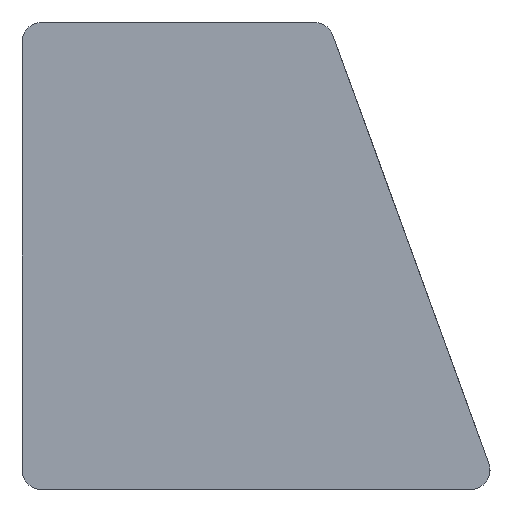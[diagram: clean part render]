
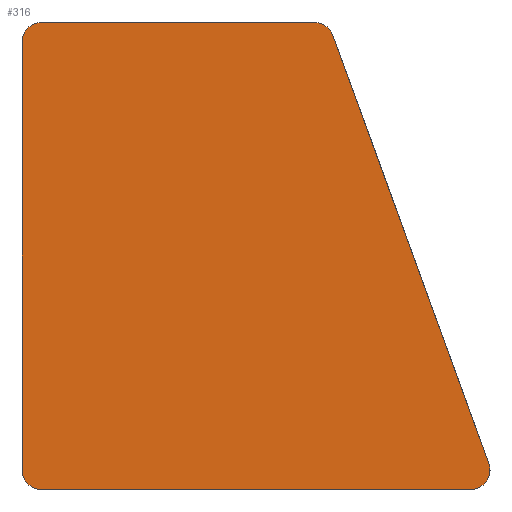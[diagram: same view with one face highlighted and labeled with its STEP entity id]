
A CAD part, left-side view. The second image highlights one B-rep face of the part: STEP entity #316.
In plain terms, the highlighted planar face has unit normal (-1, 0, 0).
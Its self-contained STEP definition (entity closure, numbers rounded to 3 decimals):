
#21 = EDGE_CURVE('',#22,#24,#26,.T.);
#22 = VERTEX_POINT('',#23);
#23 = CARTESIAN_POINT('',(-75.,6.805,3.));
#24 = VERTEX_POINT('',#25);
#25 = CARTESIAN_POINT('',(-75.,96.,3.));
#26 = SURFACE_CURVE('',#27,(#31,#43),.PCURVE_S1.);
#27 = LINE('',#28,#29);
#28 = CARTESIAN_POINT('',(-75.,1.092,3.));
#29 = VECTOR('',#30,1.);
#30 = DIRECTION('',(0.,1.,0.));
#31 = PCURVE('',#32,#37);
#32 = PLANE('',#33);
#33 = AXIS2_PLACEMENT_3D('',#34,#35,#36);
#34 = CARTESIAN_POINT('',(-75.,1.092,3.));
#35 = DIRECTION('',(0.,0.,1.));
#36 = DIRECTION('',(0.,1.,0.));
#37 = DEFINITIONAL_REPRESENTATION('',(#38),#42);
#38 = LINE('',#39,#40);
#39 = CARTESIAN_POINT('',(0.,0.));
#40 = VECTOR('',#41,1.);
#41 = DIRECTION('',(1.,0.));
#42 = ( GEOMETRIC_REPRESENTATION_CONTEXT(2) 
PARAMETRIC_REPRESENTATION_CONTEXT() REPRESENTATION_CONTEXT('2D SPACE',''
  ) );
#43 = PCURVE('',#44,#49);
#44 = PLANE('',#45);
#45 = AXIS2_PLACEMENT_3D('',#46,#47,#48);
#46 = CARTESIAN_POINT('',(-75.,57.816,46.779));
#47 = DIRECTION('',(1.,0.,0.));
#48 = DIRECTION('',(-0.,0.,1.));
#49 = DEFINITIONAL_REPRESENTATION('',(#50),#54);
#50 = LINE('',#51,#52);
#51 = CARTESIAN_POINT('',(-43.779,56.724));
#52 = VECTOR('',#53,1.);
#53 = DIRECTION('',(0.,-1.));
#54 = ( GEOMETRIC_REPRESENTATION_CONTEXT(2) 
PARAMETRIC_REPRESENTATION_CONTEXT() REPRESENTATION_CONTEXT('2D SPACE',''
  ) );
#72 = CYLINDRICAL_SURFACE('',#73,4.);
#73 = AXIS2_PLACEMENT_3D('',#74,#75,#76);
#74 = CARTESIAN_POINT('',(-75.,6.805,7.));
#75 = DIRECTION('',(1.,0.,0.));
#76 = DIRECTION('',(0.,0.,-1.));
#235 = CYLINDRICAL_SURFACE('',#236,4.);
#236 = AXIS2_PLACEMENT_3D('',#237,#238,#239);
#237 = CARTESIAN_POINT('',(-75.,96.,7.));
#238 = DIRECTION('',(1.,0.,0.));
#239 = DIRECTION('',(0.,0.,-1.));
#316 = ADVANCED_FACE('',(#317),#44,.F.);
#317 = FACE_BOUND('',#318,.F.);
#318 = EDGE_LOOP('',(#319,#320,#344,#372,#401,#429,#458,#486));
#319 = ORIENTED_EDGE('',*,*,#21,.T.);
#320 = ORIENTED_EDGE('',*,*,#321,.T.);
#321 = EDGE_CURVE('',#24,#322,#324,.T.);
#322 = VERTEX_POINT('',#323);
#323 = CARTESIAN_POINT('',(-75.,100.,7.));
#324 = SURFACE_CURVE('',#325,(#330,#337),.PCURVE_S1.);
#325 = CIRCLE('',#326,4.);
#326 = AXIS2_PLACEMENT_3D('',#327,#328,#329);
#327 = CARTESIAN_POINT('',(-75.,96.,7.));
#328 = DIRECTION('',(1.,0.,0.));
#329 = DIRECTION('',(-0.,0.,1.));
#330 = PCURVE('',#44,#331);
#331 = DEFINITIONAL_REPRESENTATION('',(#332),#336);
#332 = CIRCLE('',#333,4.);
#333 = AXIS2_PLACEMENT_2D('',#334,#335);
#334 = CARTESIAN_POINT('',(-39.779,-38.184));
#335 = DIRECTION('',(1.,0.));
#336 = ( GEOMETRIC_REPRESENTATION_CONTEXT(2) 
PARAMETRIC_REPRESENTATION_CONTEXT() REPRESENTATION_CONTEXT('2D SPACE',''
  ) );
#337 = PCURVE('',#235,#338);
#338 = DEFINITIONAL_REPRESENTATION('',(#339),#343);
#339 = LINE('',#340,#341);
#340 = CARTESIAN_POINT('',(-3.142,0.));
#341 = VECTOR('',#342,1.);
#342 = DIRECTION('',(1.,0.));
#343 = ( GEOMETRIC_REPRESENTATION_CONTEXT(2) 
PARAMETRIC_REPRESENTATION_CONTEXT() REPRESENTATION_CONTEXT('2D SPACE',''
  ) );
#344 = ORIENTED_EDGE('',*,*,#345,.T.);
#345 = EDGE_CURVE('',#322,#346,#348,.T.);
#346 = VERTEX_POINT('',#347);
#347 = CARTESIAN_POINT('',(-75.,100.,96.));
#348 = SURFACE_CURVE('',#349,(#353,#360),.PCURVE_S1.);
#349 = LINE('',#350,#351);
#350 = CARTESIAN_POINT('',(-75.,100.,3.));
#351 = VECTOR('',#352,1.);
#352 = DIRECTION('',(0.,0.,1.));
#353 = PCURVE('',#44,#354);
#354 = DEFINITIONAL_REPRESENTATION('',(#355),#359);
#355 = LINE('',#356,#357);
#356 = CARTESIAN_POINT('',(-43.779,-42.184));
#357 = VECTOR('',#358,1.);
#358 = DIRECTION('',(1.,0.));
#359 = ( GEOMETRIC_REPRESENTATION_CONTEXT(2) 
PARAMETRIC_REPRESENTATION_CONTEXT() REPRESENTATION_CONTEXT('2D SPACE',''
  ) );
#360 = PCURVE('',#361,#366);
#361 = PLANE('',#362);
#362 = AXIS2_PLACEMENT_3D('',#363,#364,#365);
#363 = CARTESIAN_POINT('',(-75.,100.,3.));
#364 = DIRECTION('',(0.,-1.,0.));
#365 = DIRECTION('',(0.,0.,1.));
#366 = DEFINITIONAL_REPRESENTATION('',(#367),#371);
#367 = LINE('',#368,#369);
#368 = CARTESIAN_POINT('',(0.,0.));
#369 = VECTOR('',#370,1.);
#370 = DIRECTION('',(1.,0.));
#371 = ( GEOMETRIC_REPRESENTATION_CONTEXT(2) 
PARAMETRIC_REPRESENTATION_CONTEXT() REPRESENTATION_CONTEXT('2D SPACE',''
  ) );
#372 = ORIENTED_EDGE('',*,*,#373,.T.);
#373 = EDGE_CURVE('',#346,#374,#376,.T.);
#374 = VERTEX_POINT('',#375);
#375 = CARTESIAN_POINT('',(-75.,96.,100.));
#376 = SURFACE_CURVE('',#377,(#382,#389),.PCURVE_S1.);
#377 = CIRCLE('',#378,4.);
#378 = AXIS2_PLACEMENT_3D('',#379,#380,#381);
#379 = CARTESIAN_POINT('',(-75.,96.,96.));
#380 = DIRECTION('',(1.,0.,0.));
#381 = DIRECTION('',(-0.,0.,1.));
#382 = PCURVE('',#44,#383);
#383 = DEFINITIONAL_REPRESENTATION('',(#384),#388);
#384 = CIRCLE('',#385,4.);
#385 = AXIS2_PLACEMENT_2D('',#386,#387);
#386 = CARTESIAN_POINT('',(49.221,-38.184));
#387 = DIRECTION('',(1.,0.));
#388 = ( GEOMETRIC_REPRESENTATION_CONTEXT(2) 
PARAMETRIC_REPRESENTATION_CONTEXT() REPRESENTATION_CONTEXT('2D SPACE',''
  ) );
#389 = PCURVE('',#390,#395);
#390 = CYLINDRICAL_SURFACE('',#391,4.);
#391 = AXIS2_PLACEMENT_3D('',#392,#393,#394);
#392 = CARTESIAN_POINT('',(-75.,96.,96.));
#393 = DIRECTION('',(1.,0.,0.));
#394 = DIRECTION('',(-0.,1.,0.));
#395 = DEFINITIONAL_REPRESENTATION('',(#396),#400);
#396 = LINE('',#397,#398);
#397 = CARTESIAN_POINT('',(-4.712,0.));
#398 = VECTOR('',#399,1.);
#399 = DIRECTION('',(1.,0.));
#400 = ( GEOMETRIC_REPRESENTATION_CONTEXT(2) 
PARAMETRIC_REPRESENTATION_CONTEXT() REPRESENTATION_CONTEXT('2D SPACE',''
  ) );
#401 = ORIENTED_EDGE('',*,*,#402,.T.);
#402 = EDGE_CURVE('',#374,#403,#405,.T.);
#403 = VERTEX_POINT('',#404);
#404 = CARTESIAN_POINT('',(-75.,39.198,100.));
#405 = SURFACE_CURVE('',#406,(#410,#417),.PCURVE_S1.);
#406 = LINE('',#407,#408);
#407 = CARTESIAN_POINT('',(-75.,100.,100.));
#408 = VECTOR('',#409,1.);
#409 = DIRECTION('',(0.,-1.,0.));
#410 = PCURVE('',#44,#411);
#411 = DEFINITIONAL_REPRESENTATION('',(#412),#416);
#412 = LINE('',#413,#414);
#413 = CARTESIAN_POINT('',(53.221,-42.184));
#414 = VECTOR('',#415,1.);
#415 = DIRECTION('',(0.,1.));
#416 = ( GEOMETRIC_REPRESENTATION_CONTEXT(2) 
PARAMETRIC_REPRESENTATION_CONTEXT() REPRESENTATION_CONTEXT('2D SPACE',''
  ) );
#417 = PCURVE('',#418,#423);
#418 = PLANE('',#419);
#419 = AXIS2_PLACEMENT_3D('',#420,#421,#422);
#420 = CARTESIAN_POINT('',(-75.,100.,100.));
#421 = DIRECTION('',(0.,0.,-1.));
#422 = DIRECTION('',(0.,-1.,0.));
#423 = DEFINITIONAL_REPRESENTATION('',(#424),#428);
#424 = LINE('',#425,#426);
#425 = CARTESIAN_POINT('',(0.,-0.));
#426 = VECTOR('',#427,1.);
#427 = DIRECTION('',(1.,0.));
#428 = ( GEOMETRIC_REPRESENTATION_CONTEXT(2) 
PARAMETRIC_REPRESENTATION_CONTEXT() REPRESENTATION_CONTEXT('2D SPACE',''
  ) );
#429 = ORIENTED_EDGE('',*,*,#430,.T.);
#430 = EDGE_CURVE('',#403,#431,#433,.T.);
#431 = VERTEX_POINT('',#432);
#432 = CARTESIAN_POINT('',(-75.,35.439,97.368));
#433 = SURFACE_CURVE('',#434,(#439,#446),.PCURVE_S1.);
#434 = CIRCLE('',#435,4.);
#435 = AXIS2_PLACEMENT_3D('',#436,#437,#438);
#436 = CARTESIAN_POINT('',(-75.,39.198,96.));
#437 = DIRECTION('',(1.,0.,0.));
#438 = DIRECTION('',(-0.,0.,1.));
#439 = PCURVE('',#44,#440);
#440 = DEFINITIONAL_REPRESENTATION('',(#441),#445);
#441 = CIRCLE('',#442,4.);
#442 = AXIS2_PLACEMENT_2D('',#443,#444);
#443 = CARTESIAN_POINT('',(49.221,18.618));
#444 = DIRECTION('',(1.,0.));
#445 = ( GEOMETRIC_REPRESENTATION_CONTEXT(2) 
PARAMETRIC_REPRESENTATION_CONTEXT() REPRESENTATION_CONTEXT('2D SPACE',''
  ) );
#446 = PCURVE('',#447,#452);
#447 = CYLINDRICAL_SURFACE('',#448,4.);
#448 = AXIS2_PLACEMENT_3D('',#449,#450,#451);
#449 = CARTESIAN_POINT('',(-75.,39.198,96.));
#450 = DIRECTION('',(1.,0.,0.));
#451 = DIRECTION('',(0.,-0.,1.));
#452 = DEFINITIONAL_REPRESENTATION('',(#453),#457);
#453 = LINE('',#454,#455);
#454 = CARTESIAN_POINT('',(0.,0.));
#455 = VECTOR('',#456,1.);
#456 = DIRECTION('',(1.,0.));
#457 = ( GEOMETRIC_REPRESENTATION_CONTEXT(2) 
PARAMETRIC_REPRESENTATION_CONTEXT() REPRESENTATION_CONTEXT('2D SPACE',''
  ) );
#458 = ORIENTED_EDGE('',*,*,#459,.T.);
#459 = EDGE_CURVE('',#431,#460,#462,.T.);
#460 = VERTEX_POINT('',#461);
#461 = CARTESIAN_POINT('',(-75.,3.046,8.368));
#462 = SURFACE_CURVE('',#463,(#467,#474),.PCURVE_S1.);
#463 = LINE('',#464,#465);
#464 = CARTESIAN_POINT('',(-75.,36.397,100.));
#465 = VECTOR('',#466,1.);
#466 = DIRECTION('',(0.,-0.342,-0.94));
#467 = PCURVE('',#44,#468);
#468 = DEFINITIONAL_REPRESENTATION('',(#469),#473);
#469 = LINE('',#470,#471);
#470 = CARTESIAN_POINT('',(53.221,21.419));
#471 = VECTOR('',#472,1.);
#472 = DIRECTION('',(-0.94,0.342));
#473 = ( GEOMETRIC_REPRESENTATION_CONTEXT(2) 
PARAMETRIC_REPRESENTATION_CONTEXT() REPRESENTATION_CONTEXT('2D SPACE',''
  ) );
#474 = PCURVE('',#475,#480);
#475 = PLANE('',#476);
#476 = AXIS2_PLACEMENT_3D('',#477,#478,#479);
#477 = CARTESIAN_POINT('',(-75.,36.397,100.));
#478 = DIRECTION('',(0.,0.94,-0.342));
#479 = DIRECTION('',(0.,-0.342,-0.94));
#480 = DEFINITIONAL_REPRESENTATION('',(#481),#485);
#481 = LINE('',#482,#483);
#482 = CARTESIAN_POINT('',(0.,0.));
#483 = VECTOR('',#484,1.);
#484 = DIRECTION('',(1.,0.));
#485 = ( GEOMETRIC_REPRESENTATION_CONTEXT(2) 
PARAMETRIC_REPRESENTATION_CONTEXT() REPRESENTATION_CONTEXT('2D SPACE',''
  ) );
#486 = ORIENTED_EDGE('',*,*,#487,.F.);
#487 = EDGE_CURVE('',#22,#460,#488,.T.);
#488 = SURFACE_CURVE('',#489,(#494,#505),.PCURVE_S1.);
#489 = CIRCLE('',#490,4.);
#490 = AXIS2_PLACEMENT_3D('',#491,#492,#493);
#491 = CARTESIAN_POINT('',(-75.,6.805,7.));
#492 = DIRECTION('',(-1.,0.,-0.));
#493 = DIRECTION('',(-0.,0.,1.));
#494 = PCURVE('',#44,#495);
#495 = DEFINITIONAL_REPRESENTATION('',(#496),#504);
#496 = ( BOUNDED_CURVE() B_SPLINE_CURVE(2,(#497,#498,#499,#500,#501,#502
,#503),.UNSPECIFIED.,.T.,.F.) B_SPLINE_CURVE_WITH_KNOTS((1,2,2,2,2,1),(
    -2.094,0.,2.094,4.189,6.283,
8.378),.UNSPECIFIED.) CURVE() GEOMETRIC_REPRESENTATION_ITEM() 
RATIONAL_B_SPLINE_CURVE((1.,0.5,1.,0.5,1.,0.5,1.)) REPRESENTATION_ITEM(
  '') );
#497 = CARTESIAN_POINT('',(-35.779,51.011));
#498 = CARTESIAN_POINT('',(-35.779,44.083));
#499 = CARTESIAN_POINT('',(-41.779,47.547));
#500 = CARTESIAN_POINT('',(-47.779,51.011));
#501 = CARTESIAN_POINT('',(-41.779,54.476));
#502 = CARTESIAN_POINT('',(-35.779,57.94));
#503 = CARTESIAN_POINT('',(-35.779,51.011));
#504 = ( GEOMETRIC_REPRESENTATION_CONTEXT(2) 
PARAMETRIC_REPRESENTATION_CONTEXT() REPRESENTATION_CONTEXT('2D SPACE',''
  ) );
#505 = PCURVE('',#72,#506);
#506 = DEFINITIONAL_REPRESENTATION('',(#507),#511);
#507 = LINE('',#508,#509);
#508 = CARTESIAN_POINT('',(3.142,-0.));
#509 = VECTOR('',#510,1.);
#510 = DIRECTION('',(-1.,0.));
#511 = ( GEOMETRIC_REPRESENTATION_CONTEXT(2) 
PARAMETRIC_REPRESENTATION_CONTEXT() REPRESENTATION_CONTEXT('2D SPACE',''
  ) );
